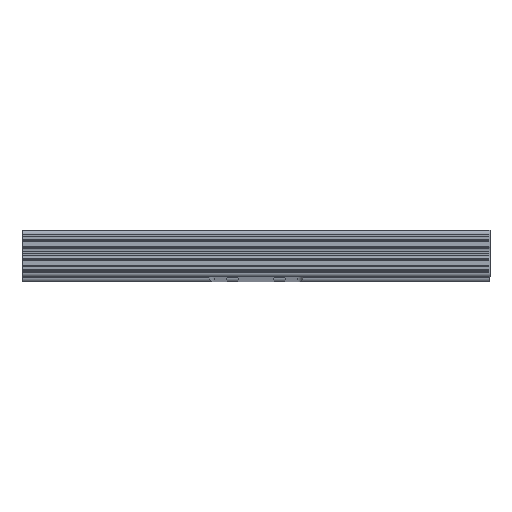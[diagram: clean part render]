
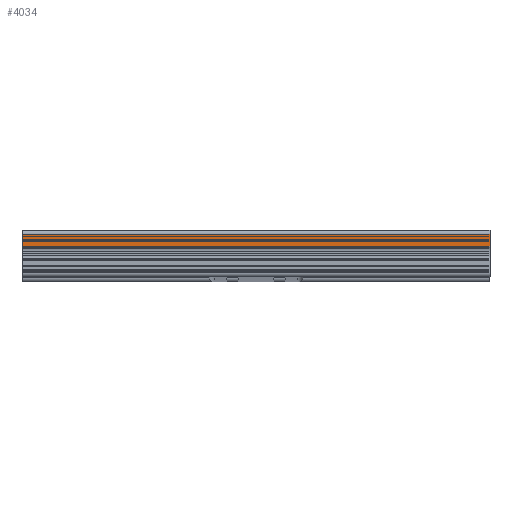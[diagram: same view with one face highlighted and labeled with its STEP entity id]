
A CAD part, top view. The second image highlights one B-rep face of the part: STEP entity #4034.
In plain terms, the highlighted planar face has unit normal (0, 0, 1).
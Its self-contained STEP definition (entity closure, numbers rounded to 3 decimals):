
#179 = DIRECTION ( 'NONE',  ( 0., -1., 0. ) ) ;
#408 = DIRECTION ( 'NONE',  ( 0., -1., 0. ) ) ;
#631 = EDGE_CURVE ( 'NONE', #4927, #6130, #4400, .T. ) ;
#995 = VERTEX_POINT ( 'NONE', #5568 ) ;
#1871 = DIRECTION ( 'NONE',  ( -1., 0., 0. ) ) ;
#1992 = VERTEX_POINT ( 'NONE', #3120 ) ;
#2423 = ORIENTED_EDGE ( 'NONE', *, *, #2723, .T. ) ;
#2546 = DIRECTION ( 'NONE',  ( -1., 0., 0. ) ) ;
#2615 = ORIENTED_EDGE ( 'NONE', *, *, #6826, .T. ) ;
#2723 = EDGE_CURVE ( 'NONE', #995, #1992, #5694, .T. ) ;
#2780 = VECTOR ( 'NONE', #408, 1000. ) ;
#2958 = CARTESIAN_POINT ( 'NONE',  ( -100., 3., 630. ) ) ;
#3120 = CARTESIAN_POINT ( 'NONE',  ( -100., 3., 630. ) ) ;
#3515 = CARTESIAN_POINT ( 'NONE',  ( 100., 3., 630. ) ) ;
#3594 = ORIENTED_EDGE ( 'NONE', *, *, #3704, .F. ) ;
#3704 = EDGE_CURVE ( 'NONE', #6130, #1992, #5892, .T. ) ;
#3803 = CARTESIAN_POINT ( 'NONE',  ( 100., 3., 630. ) ) ;
#3934 = PLANE ( 'NONE',  #8178 ) ;
#4034 = ADVANCED_FACE ( 'NONE', ( #4602 ), #3934, .F. ) ;
#4400 = LINE ( 'NONE', #3515, #6764 ) ;
#4602 = FACE_OUTER_BOUND ( 'NONE', #7755, .T. ) ;
#4927 = VERTEX_POINT ( 'NONE', #8131 ) ;
#5176 = CARTESIAN_POINT ( 'NONE',  ( 100., 8.25, 630. ) ) ;
#5568 = CARTESIAN_POINT ( 'NONE',  ( -100., 8.25, 630. ) ) ;
#5694 = LINE ( 'NONE', #2958, #2780 ) ;
#5892 = LINE ( 'NONE', #8571, #6314 ) ;
#6130 = VERTEX_POINT ( 'NONE', #7001 ) ;
#6138 = LINE ( 'NONE', #5176, #8204 ) ;
#6314 = VECTOR ( 'NONE', #2546, 1000. ) ;
#6409 = ORIENTED_EDGE ( 'NONE', *, *, #631, .F. ) ;
#6764 = VECTOR ( 'NONE', #179, 1000. ) ;
#6826 = EDGE_CURVE ( 'NONE', #4927, #995, #6138, .T. ) ;
#7001 = CARTESIAN_POINT ( 'NONE',  ( 100., 3., 630. ) ) ;
#7154 = DIRECTION ( 'NONE',  ( 0., 0., -1. ) ) ;
#7497 = DIRECTION ( 'NONE',  ( -1., 0., 0. ) ) ;
#7755 = EDGE_LOOP ( 'NONE', ( #2423, #3594, #6409, #2615 ) ) ;
#8131 = CARTESIAN_POINT ( 'NONE',  ( 100., 8.25, 630. ) ) ;
#8178 = AXIS2_PLACEMENT_3D ( 'NONE', #3803, #7154, #1871 ) ;
#8204 = VECTOR ( 'NONE', #7497, 1000. ) ;
#8571 = CARTESIAN_POINT ( 'NONE',  ( 100., 3., 630. ) ) ;
